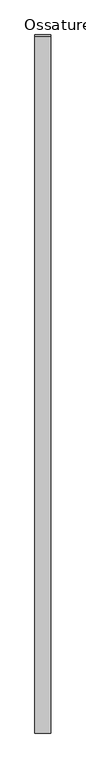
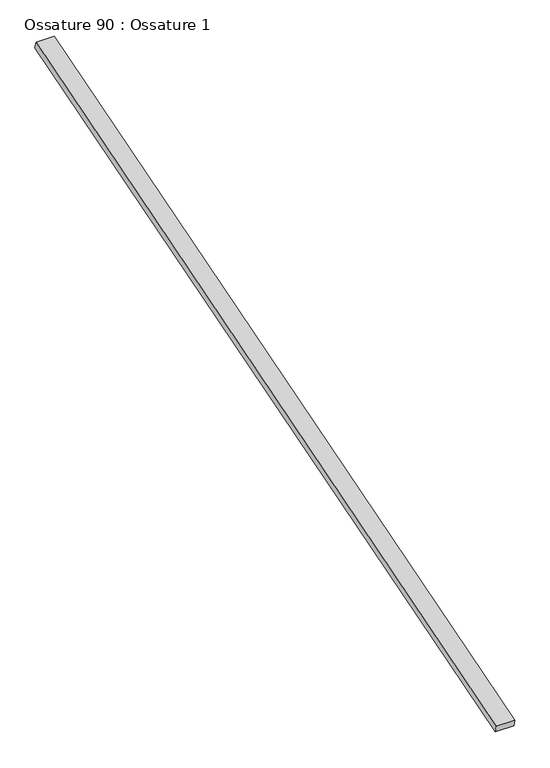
"""IFC4 building model written with IfcOpenShell, lengths in millimetres: beam geometry, Ossature 90 : Ossature 1."""

from ifc_helpers import new_model, si_unit, frame, origin, place, context, project, spatial, polyline, outline, extrude, source, transform, mapped, element, save


def ossature_90_ossature_1_1d88c01f(model_context):
    return source(origin(), model_context, "Body", "SweptSolid", [
        extrude(outline(polyline([(0.0, 0.0), (0.0, -4543.0299679), (-100.0, -4543.0299679), (-100.0, 0.0), (0.0, 0.0)])), frame((21717.6466393, -833.3913565, 8153.6336115), z_axis=(0.0, -0.28734788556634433, 0.9578262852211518), x_axis=(-1.0, 0.0, 0.0)), (0.0, 0.0, 1.0), 40.0),
    ])


if __name__ == "__main__":
    model = new_model("IFC4")
    model_context = context("Model", 3, world=origin())
    ifc_project = project(units=[si_unit("LENGTHUNIT", "METRE", prefix="MILLI")], contexts=[model_context])
    site = spatial("IfcSite", under=ifc_project)
    building = spatial("IfcBuilding", under=site)
    placement = place(None, origin())
    ossature_90_ossature_1_shape = ossature_90_ossature_1_1d88c01f(model_context)
    element("IfcBeam", 1, ObjectType="Ossature 90 : Ossature 1", at=placement, inside=building, context=model_context, shape_type="MappedRepresentation", body=[
        mapped(ossature_90_ossature_1_shape, transform((0.0, 0.0, 0.0), x_axis=(1.0, 0.0, 0.0), y_axis=(0.0, 1.0, 0.0), z_axis=(0.0, 0.0, 1.0))),
    ])
    save(model, "model.ifc")
